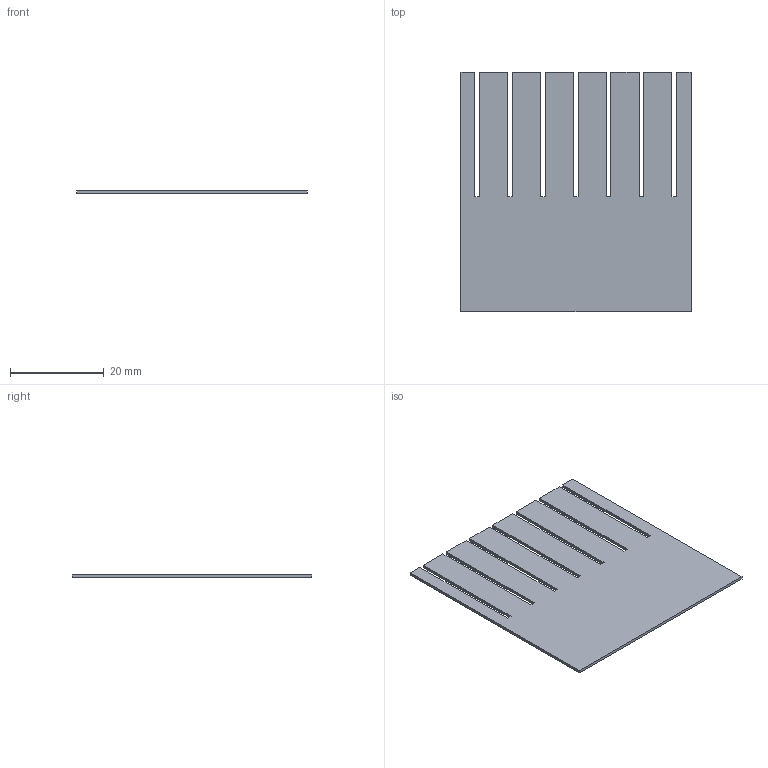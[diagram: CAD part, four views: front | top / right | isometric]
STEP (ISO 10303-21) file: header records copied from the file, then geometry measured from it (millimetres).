
FILE_DESCRIPTION (( 'STEP AP203' ), '1' );
FILE_NAME ('Ñåìÿííèöà íà 36 ÿ÷ååê.STEP', '2026-10-09T09:40:31', ( '' ), ( '' ), 'SwSTEP 2.0', 'SolidWorks 2025', '' );
FILE_SCHEMA (( 'CONFIG_CONTROL_DESIGN' ));
Length unit declared in the file: millimetre
Products named in the file (1): Семянница на 36 ячеек
Bounding box: 49 x 51 x 0.6 mm (x, y, z)
Volume: 1387 mm3; surface area: 4965.9 mm2
Topology: 1 solids, 1 shells, 34 faces, 96 edges, 64 vertices
Faces by surface type: plane 34
Entity records: 1157 total; most frequent: CARTESIAN_POINT 195, ORIENTED_EDGE 192, DIRECTION 166, EDGE_CURVE 96, VECTOR 96, LINE 96, VERTEX_POINT 64, AXIS2_PLACEMENT_3D 35
